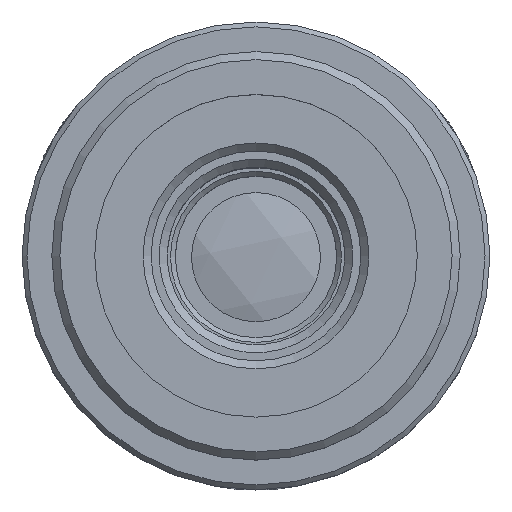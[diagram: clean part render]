
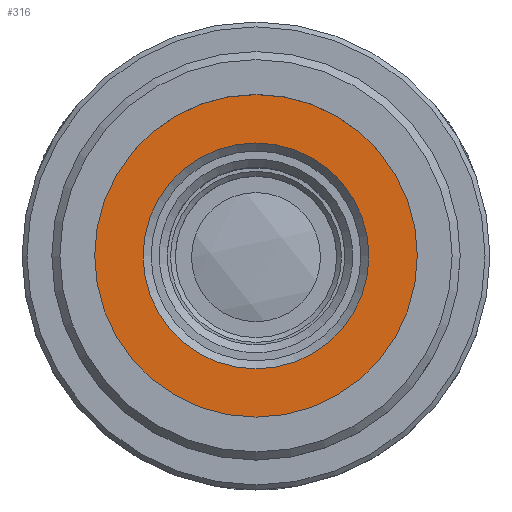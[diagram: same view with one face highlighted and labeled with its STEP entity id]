
A CAD part, top view. The second image highlights one B-rep face of the part: STEP entity #316.
In plain terms, the highlighted planar face has unit normal (0, 0, 1).
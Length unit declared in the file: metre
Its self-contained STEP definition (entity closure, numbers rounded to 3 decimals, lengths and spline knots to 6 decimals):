
#316=ADVANCED_FACE('NONE',(#723,#724),#725,.F.);
#723=FACE_BOUND('',#1234,.T.);
#724=FACE_OUTER_BOUND('',#1235,.T.);
#725=PLANE('',#1236);
#1234=EDGE_LOOP('',(#2082));
#1235=EDGE_LOOP('',(#2083));
#1236=AXIS2_PLACEMENT_3D('',#2084,#2085,#2086);
#2082=ORIENTED_EDGE('',*,*,#2774,.T.);
#2083=ORIENTED_EDGE('',*,*,#2772,.F.);
#2084=CARTESIAN_POINT('',(-0.005501,0.009136,0.0559));
#2085=DIRECTION('',(0.,0.0,-1.0));
#2086=DIRECTION('',(-1.0,0.0,0.));
#2772=EDGE_CURVE('NONE',#3223,#3223,#3224,.T.);
#2774=EDGE_CURVE('NONE',#3226,#3226,#3227,.T.);
#3223=VERTEX_POINT('',#3954);
#3224=CIRCLE('',#3955,0.01);
#3226=VERTEX_POINT('',#3957);
#3227=CIRCLE('',#3958,0.007);
#3954=CARTESIAN_POINT('',(-0.015501,-0.000864,0.0559));
#3955=AXIS2_PLACEMENT_3D('',#4673,#4674,#4675);
#3957=CARTESIAN_POINT('',(-0.012501,-0.000864,0.0559));
#3958=AXIS2_PLACEMENT_3D('',#4676,#4677,#4678);
#4673=CARTESIAN_POINT('',(-0.005501,-0.000864,0.0559));
#4674=DIRECTION('',(0.,0.0,-1.0));
#4675=DIRECTION('',(-1.0,0.0,0.));
#4676=CARTESIAN_POINT('',(-0.005501,-0.000864,0.0559));
#4677=DIRECTION('',(0.,0.0,-1.0));
#4678=DIRECTION('',(-1.0,0.0,0.));
